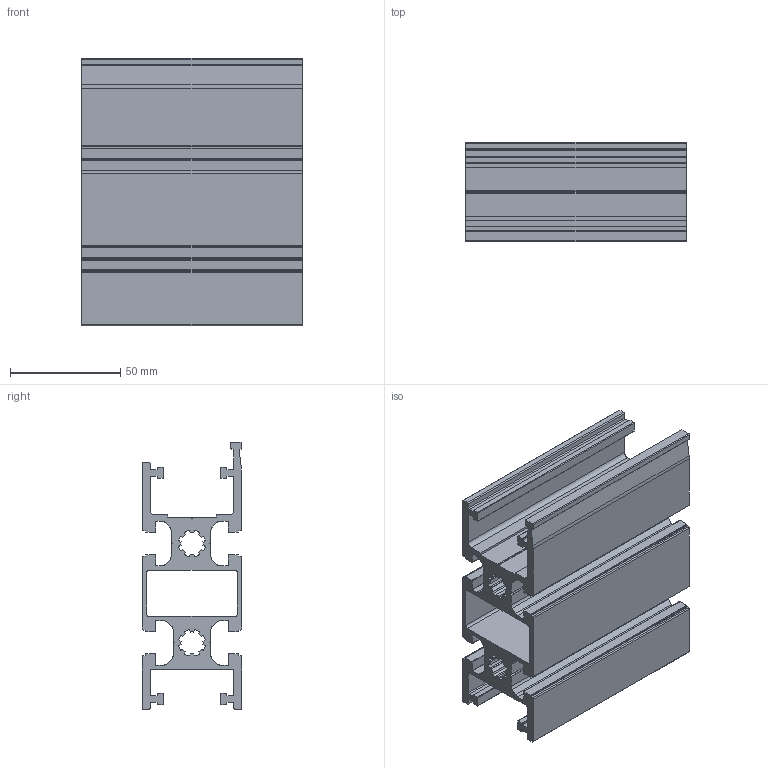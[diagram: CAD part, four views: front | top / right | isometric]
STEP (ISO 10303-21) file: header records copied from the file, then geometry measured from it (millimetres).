
FILE_DESCRIPTION (( 'STEP AP214' ), '1' );
FILE_NAME ('112.101.001.STEP', '2020-07-23T08:49:56', ( '' ), ( '' ), 'SwSTEP 2.0', 'SolidWorks 2018', '' );
FILE_SCHEMA (( 'AUTOMOTIVE_DESIGN' ));
Length unit declared in the file: millimetre
Products named in the file (1): 112.101.001
Bounding box: 100 x 45 x 121 mm (x, y, z)
Volume: 166930.7 mm3; surface area: 90536.5 mm2
Topology: 1 solids, 1 shells, 355 faces, 1059 edges, 706 vertices
Faces by surface type: cylinder 193, plane 162
Entity records: 12105 total; most frequent: DIRECTION 2157, CARTESIAN_POINT 2121, ORIENTED_EDGE 2118, EDGE_CURVE 1059, AXIS2_PLACEMENT_3D 742, VERTEX_POINT 706, VECTOR 673, LINE 673
